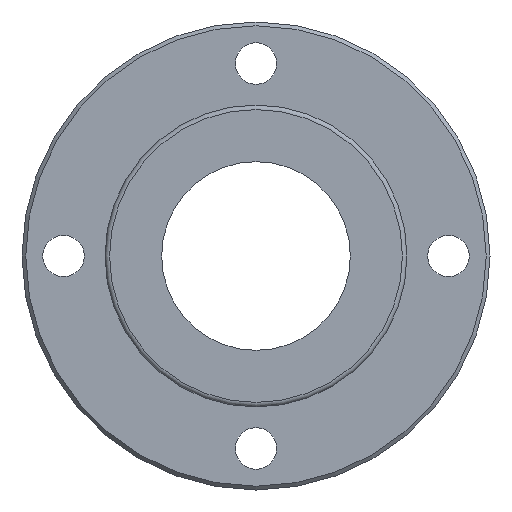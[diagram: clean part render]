
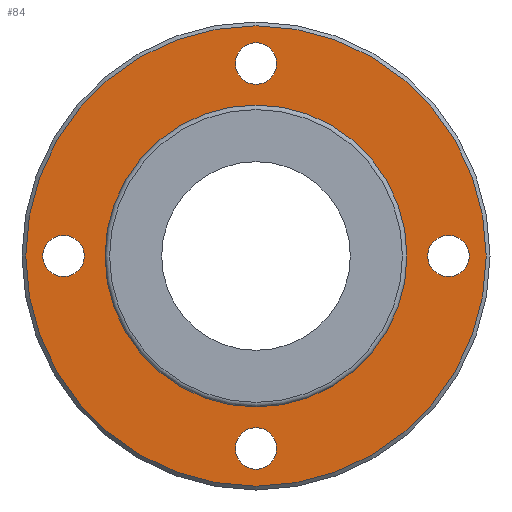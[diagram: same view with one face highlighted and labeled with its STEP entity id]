
A CAD part, left-side view. The second image highlights one B-rep face of the part: STEP entity #84.
In plain terms, the highlighted planar face has unit normal (-1, 0, 0).
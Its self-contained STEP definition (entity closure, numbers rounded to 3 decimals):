
#84=ADVANCED_FACE('',(#131,#132,#133,#134,#135,#136),#137,.T.);
#131=FACE_OUTER_BOUND('',#223,.T.);
#132=FACE_BOUND('',#224,.T.);
#133=FACE_BOUND('',#225,.T.);
#134=FACE_BOUND('',#226,.T.);
#135=FACE_BOUND('',#227,.T.);
#136=FACE_BOUND('',#228,.T.);
#137=PLANE('',#229);
#223=EDGE_LOOP('',(#333));
#224=EDGE_LOOP('',(#334));
#225=EDGE_LOOP('',(#335));
#226=EDGE_LOOP('',(#336));
#227=EDGE_LOOP('',(#337));
#228=EDGE_LOOP('',(#338));
#229=AXIS2_PLACEMENT_3D('',#339,#340,#341);
#333=ORIENTED_EDGE('',*,*,#451,.T.);
#334=ORIENTED_EDGE('',*,*,#452,.F.);
#335=ORIENTED_EDGE('',*,*,#453,.T.);
#336=ORIENTED_EDGE('',*,*,#454,.T.);
#337=ORIENTED_EDGE('',*,*,#449,.T.);
#338=ORIENTED_EDGE('',*,*,#455,.T.);
#339=CARTESIAN_POINT('',(-8.0,25.125,0.));
#340=DIRECTION('',(-1.0,0.,0.));
#341=DIRECTION('',(0.,0.0,1.0));
#449=EDGE_CURVE('',#494,#494,#495,.T.);
#451=EDGE_CURVE('',#498,#498,#499,.T.);
#452=EDGE_CURVE('',#500,#500,#501,.T.);
#453=EDGE_CURVE('',#502,#502,#503,.T.);
#454=EDGE_CURVE('',#504,#504,#505,.T.);
#455=EDGE_CURVE('',#506,#506,#507,.T.);
#494=VERTEX_POINT('',#558);
#495=CIRCLE('',#559,2.75);
#498=VERTEX_POINT('',#562);
#499=CIRCLE('',#563,30.5);
#500=VERTEX_POINT('',#564);
#501=CIRCLE('',#565,19.75);
#502=VERTEX_POINT('',#566);
#503=CIRCLE('',#567,2.75);
#504=VERTEX_POINT('',#568);
#505=CIRCLE('',#569,2.75);
#506=VERTEX_POINT('',#570);
#507=CIRCLE('',#571,2.75);
#558=CARTESIAN_POINT('',(-8.0,0.,28.25));
#559=AXIS2_PLACEMENT_3D('',#635,#636,#637);
#562=CARTESIAN_POINT('',(-8.0,30.5,0.));
#563=AXIS2_PLACEMENT_3D('',#641,#642,#643);
#564=CARTESIAN_POINT('',(-8.0,19.75,0.));
#565=AXIS2_PLACEMENT_3D('',#644,#645,#646);
#566=CARTESIAN_POINT('',(-8.0,-25.5,2.75));
#567=AXIS2_PLACEMENT_3D('',#647,#648,#649);
#568=CARTESIAN_POINT('',(-8.0,0.,-22.75));
#569=AXIS2_PLACEMENT_3D('',#650,#651,#652);
#570=CARTESIAN_POINT('',(-8.0,25.5,2.75));
#571=AXIS2_PLACEMENT_3D('',#653,#654,#655);
#635=CARTESIAN_POINT('',(-8.0,0.0,25.5));
#636=DIRECTION('',(1.0,0.,0.));
#637=DIRECTION('',(0.,0.0,-1.0));
#641=CARTESIAN_POINT('',(-8.0,0.,0.));
#642=DIRECTION('',(-1.0,0.0,0.));
#643=DIRECTION('',(0.0,1.0,0.0));
#644=CARTESIAN_POINT('',(-8.0,0.,0.));
#645=DIRECTION('',(-1.0,0.0,0.));
#646=DIRECTION('',(0.0,1.0,0.0));
#647=CARTESIAN_POINT('',(-8.0,-25.5,0.));
#648=DIRECTION('',(1.0,0.,0.));
#649=DIRECTION('',(0.,0.0,-1.0));
#650=CARTESIAN_POINT('',(-8.0,0.0,-25.5));
#651=DIRECTION('',(1.0,0.,0.));
#652=DIRECTION('',(0.,0.0,-1.0));
#653=CARTESIAN_POINT('',(-8.0,25.5,0.));
#654=DIRECTION('',(1.0,0.,0.));
#655=DIRECTION('',(0.,0.0,-1.0));
